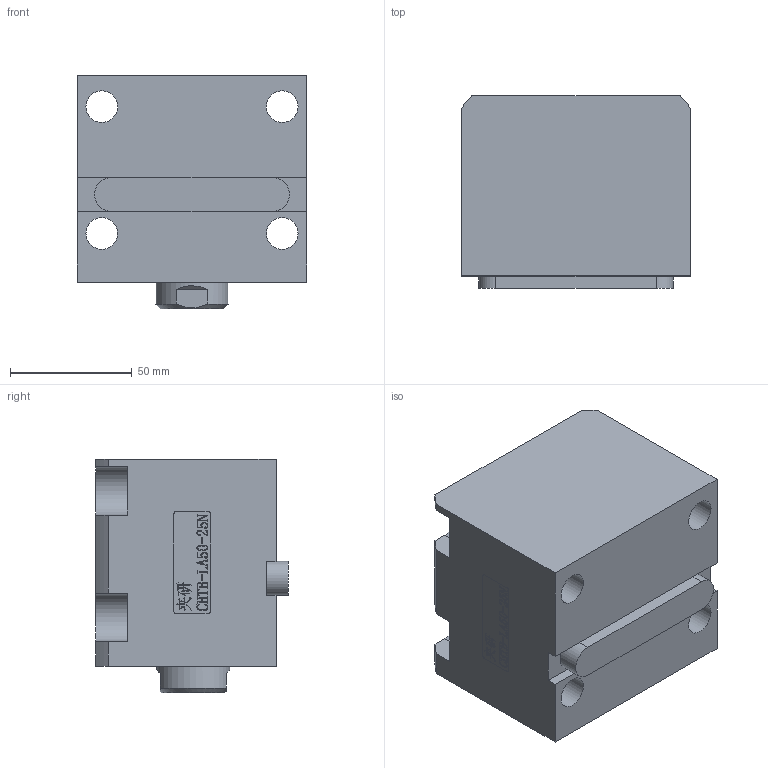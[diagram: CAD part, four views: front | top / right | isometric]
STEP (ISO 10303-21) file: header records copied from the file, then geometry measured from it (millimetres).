
FILE_DESCRIPTION(/* description */ (''),/* implementation_level */ '2;1');
FILE_NAME(/* name */ 'CHTB-LA50-25N.stp',/* time_stamp */ '2022-04-29T17:55:49+08:00',/* author */ (''),/* organization */ (''),/* preprocessor_version */ 'ST-DEVELOPER v16.7',/* originating_system */ 'SIEMENS PLM Software NX 12.0',/* authorisation */ '');
FILE_SCHEMA (('AUTOMOTIVE_DESIGN { 1 0 10303 214 3 1 1 1 }'));
Length unit declared in the file: millimetre
Products named in the file (1): CHTB-LA50-25N
Bounding box: 94 x 79 x 96 mm (x, y, z)
Volume: 504228.5 mm3; surface area: 98179 mm2
Topology: 3 solids, 3 shells, 430 faces, 1183 edges, 798 vertices
Faces by surface type: plane 282, extrusion 77, cylinder 41, torus 11, cone 11, bspline 8
Full cylindrical faces by diameter (mm): 4 x2, 5 x2, 10.7 x2, 13 x4, 19 x1, 30 x2, 39 x1, 44 x2, 46 x1, 50 x5, 59 x1
Entity records: 20471 total; most frequent: CARTESIAN_POINT 7929, ORIENTED_EDGE 2252, DIRECTION 1762, EDGE_CURVE 1126, VECTOR 872, LINE 795, VERTEX_POINT 790, EDGE_LOOP 529
